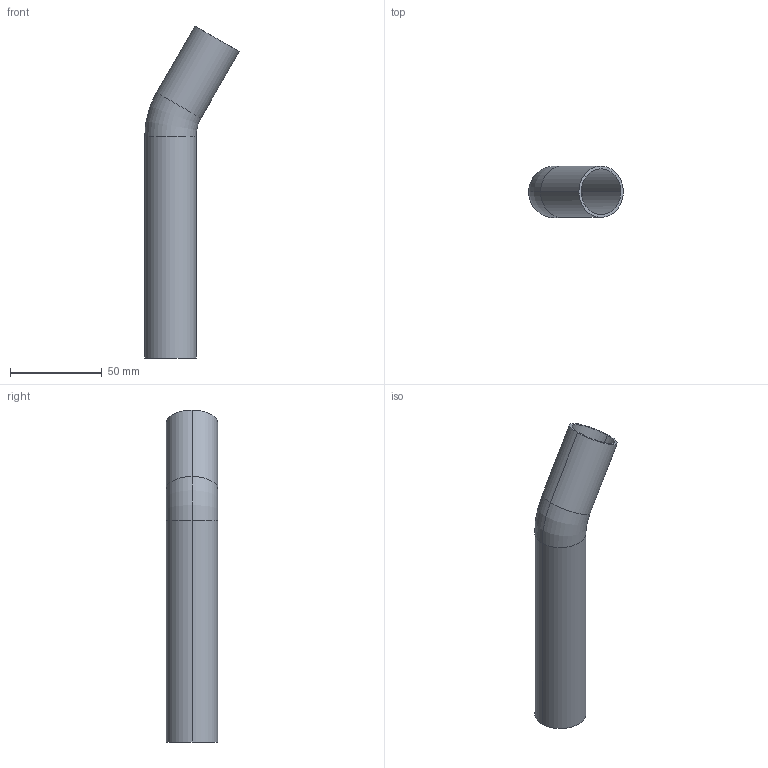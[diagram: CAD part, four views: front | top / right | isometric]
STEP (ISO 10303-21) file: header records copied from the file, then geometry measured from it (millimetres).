
FILE_DESCRIPTION(('OneSpaceDesigner STEP Export'),'2;1');
FILE_NAME('R2723 28x28.stp','2010-06-10T12:51:37',(''),(''),'OneSpace Designer STEP processor for AP214 (Solid Model)','OneSpace Modeling 15.00A 14-Mar-2007 (C) CoCreate Software GmbH','');
FILE_SCHEMA(('AUTOMOTIVE_DESIGN { 1 0 10303 214 1 1 1 1 }'));
Length unit declared in the file: millimetre
Products named in the file (2): R2723_28x28
Assembly tree (1 placements, depth 2):
  R2723_28x28
    R2723_28x28
Bounding box: 51.62 x 28 x 181.17 mm (x, y, z)
Volume: 22550.8 mm3; surface area: 30317.4 mm2
Topology: 1 solids, 1 shells, 14 faces, 30 edges, 18 vertices
Faces by surface type: cylinder 8, torus 4, plane 2
Entity records: 367 total; most frequent: ORIENTED_EDGE 60, DIRECTION 56, CARTESIAN_POINT 50, EDGE_CURVE 30, AXIS2_PLACEMENT_3D 24, VERTEX_POINT 18, EDGE_LOOP 16, CIRCLE 14
